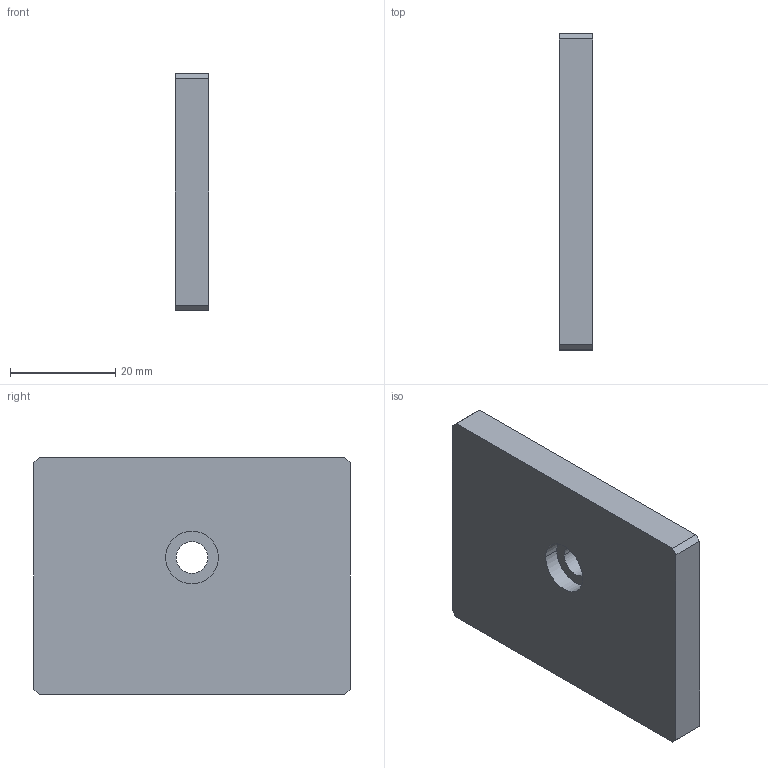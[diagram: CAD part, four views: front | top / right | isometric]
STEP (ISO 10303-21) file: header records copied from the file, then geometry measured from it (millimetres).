
FILE_DESCRIPTION(('CATIA V5 STEP Exchange','CAx-IF Rec.Pracs.--- Model Styling and Organization---1.4--- 2014-01-23','CAx-IF Rec.Pracs.---3D Tessellated Data Validation Properties---0.5---2014-09-14'),'2;1');
FILE_NAME('D:\GrabCAD\I+D\SERIE_LEXA\EKOT-1360-170921A-LEXA_WAIST_SUPPORT\FAB\FAB_C\PDF\MAQUINADO\1360.000.013.000.PLACA_FAJA.stp','2024-11-01T00:03:56+00:00',('none'),('none'),'CATIA Version 5-6 Release 2018 SP6','CATIA V5 STEP AP242','none');
FILE_SCHEMA(('AP242_MANAGED_MODEL_BASED_3D_ENGINEERING_MIM_LF {1 0 10303 442 1 1 4}'));
Length unit declared in the file: millimetre
Products named in the file (1): 1360.000.013.000.PLACA_FAJA
Bounding box: 6.35 x 60 x 45 mm (x, y, z)
Volume: 16802 mm3; surface area: 6815.5 mm2
Topology: 1 solids, 1 shells, 15 faces, 36 edges, 24 vertices
Faces by surface type: plane 11, cylinder 4
Entity records: 464 total; most frequent: CARTESIAN_POINT 74, ORIENTED_EDGE 72, DIRECTION 62, EDGE_CURVE 36, VECTOR 28, LINE 28, VERTEX_POINT 24, AXIS2_PLACEMENT_3D 22
